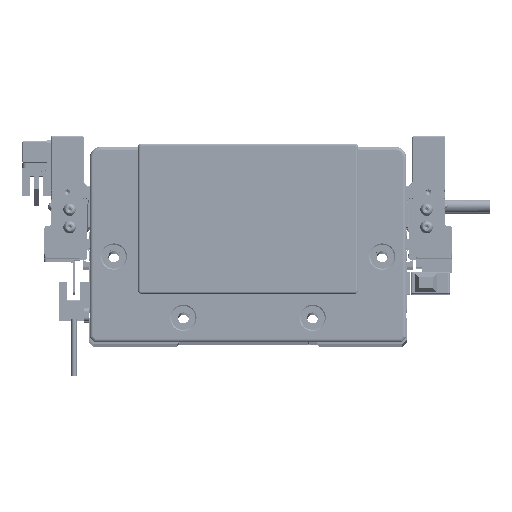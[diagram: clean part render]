
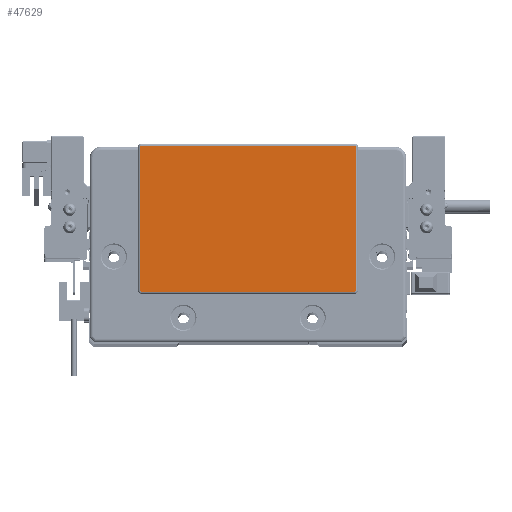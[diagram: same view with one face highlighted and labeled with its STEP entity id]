
A CAD part, top view. The second image highlights one B-rep face of the part: STEP entity #47629.
In plain terms, the highlighted planar face has unit normal (0, 0, 1) as drawn and (0, 0, -1) by its records, which use the part's own axes.
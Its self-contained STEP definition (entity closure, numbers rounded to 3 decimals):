
#1028 = VECTOR ( 'NONE', #5799, 1000. ) ;
#3677 = ORIENTED_EDGE ( 'NONE', *, *, #68801, .T. ) ;
#4081 = CARTESIAN_POINT ( 'NONE',  ( 48.75, -21.8, -2. ) ) ;
#4987 = AXIS2_PLACEMENT_3D ( 'NONE', #4081, #19065, #63043 ) ;
#5799 = DIRECTION ( 'NONE',  ( 1., 0., 0. ) ) ;
#7984 = VERTEX_POINT ( 'NONE', #49715 ) ;
#8033 = CIRCLE ( 'NONE', #4987, 0.5 ) ;
#11153 = CARTESIAN_POINT ( 'NONE',  ( 48.75, 44.3, -2. ) ) ;
#11794 = CARTESIAN_POINT ( 'NONE',  ( 48.75, 44.3, -2. ) ) ;
#11928 = DIRECTION ( 'NONE',  ( -1., 0., 0. ) ) ;
#13823 = EDGE_CURVE ( 'NONE', #44912, #66671, #35875, .T. ) ;
#14226 = CIRCLE ( 'NONE', #38944, 0.5 ) ;
#15081 = DIRECTION ( 'NONE',  ( -1., 0., 0. ) ) ;
#16904 = ORIENTED_EDGE ( 'NONE', *, *, #91197, .T. ) ;
#17965 = CIRCLE ( 'NONE', #24170, 0.5 ) ;
#19065 = DIRECTION ( 'NONE',  ( 0., 0., -1. ) ) ;
#23647 = EDGE_CURVE ( 'NONE', #49899, #66732, #39052, .T. ) ;
#23672 = CARTESIAN_POINT ( 'NONE',  ( 0., 0., -2. ) ) ;
#24170 = AXIS2_PLACEMENT_3D ( 'NONE', #45058, #59059, #15081 ) ;
#33690 = DIRECTION ( 'NONE',  ( 0., 0., -1. ) ) ;
#33753 = ORIENTED_EDGE ( 'NONE', *, *, #44442, .T. ) ;
#35137 = EDGE_CURVE ( 'NONE', #38361, #73870, #56566, .T. ) ;
#35159 = LINE ( 'NONE', #78674, #64606 ) ;
#35875 = LINE ( 'NONE', #42640, #45495 ) ;
#36277 = CARTESIAN_POINT ( 'NONE',  ( 49.25, 43.8, -2. ) ) ;
#37890 = CARTESIAN_POINT ( 'NONE',  ( -49.25, -21.8, -2. ) ) ;
#38201 = FACE_OUTER_BOUND ( 'NONE', #71147, .T. ) ;
#38361 = VERTEX_POINT ( 'NONE', #80460 ) ;
#38944 = AXIS2_PLACEMENT_3D ( 'NONE', #77580, #42714, #40821 ) ;
#39052 = LINE ( 'NONE', #69005, #88042 ) ;
#40821 = DIRECTION ( 'NONE',  ( -1., 0., 0. ) ) ;
#41041 = ORIENTED_EDGE ( 'NONE', *, *, #75090, .T. ) ;
#42506 = CARTESIAN_POINT ( 'NONE',  ( -48.75, -22.3, -2. ) ) ;
#42640 = CARTESIAN_POINT ( 'NONE',  ( -48.75, -22.3, -2. ) ) ;
#42714 = DIRECTION ( 'NONE',  ( 0., 0., -1. ) ) ;
#43999 = DIRECTION ( 'NONE',  ( 0., 0., -1. ) ) ;
#44442 = EDGE_CURVE ( 'NONE', #7984, #38361, #17965, .T. ) ;
#44912 = VERTEX_POINT ( 'NONE', #93342 ) ;
#45058 = CARTESIAN_POINT ( 'NONE',  ( -48.75, 43.8, -2. ) ) ;
#45495 = VECTOR ( 'NONE', #72612, 1000. ) ;
#47629 = ADVANCED_FACE ( 'NONE', ( #38201 ), #53173, .T. ) ;
#48004 = ORIENTED_EDGE ( 'NONE', *, *, #35137, .T. ) ;
#49157 = DIRECTION ( 'NONE',  ( 0., 1., 0. ) ) ;
#49715 = CARTESIAN_POINT ( 'NONE',  ( -49.25, 43.8, -2. ) ) ;
#49899 = VERTEX_POINT ( 'NONE', #36277 ) ;
#53173 = PLANE ( 'NONE',  #90770 ) ;
#54963 = CARTESIAN_POINT ( 'NONE',  ( 48.75, 43.8, -2. ) ) ;
#56566 = LINE ( 'NONE', #11153, #1028 ) ;
#59059 = DIRECTION ( 'NONE',  ( 0., 0., -1. ) ) ;
#61670 = ORIENTED_EDGE ( 'NONE', *, *, #23647, .T. ) ;
#63043 = DIRECTION ( 'NONE',  ( -1., 0., 0. ) ) ;
#63163 = DIRECTION ( 'NONE',  ( 0., -1., 0. ) ) ;
#64606 = VECTOR ( 'NONE', #49157, 1000. ) ;
#66671 = VERTEX_POINT ( 'NONE', #42506 ) ;
#66732 = VERTEX_POINT ( 'NONE', #77843 ) ;
#68801 = EDGE_CURVE ( 'NONE', #94547, #7984, #35159, .T. ) ;
#69005 = CARTESIAN_POINT ( 'NONE',  ( 49.25, -21.8, -2. ) ) ;
#71147 = EDGE_LOOP ( 'NONE', ( #61670, #41041, #74317, #93638, #3677, #33753, #48004, #16904 ) ) ;
#72612 = DIRECTION ( 'NONE',  ( -1., 0., 0. ) ) ;
#73870 = VERTEX_POINT ( 'NONE', #11794 ) ;
#74003 = CIRCLE ( 'NONE', #86357, 0.5 ) ;
#74317 = ORIENTED_EDGE ( 'NONE', *, *, #13823, .T. ) ;
#75090 = EDGE_CURVE ( 'NONE', #66732, #44912, #8033, .T. ) ;
#75192 = EDGE_CURVE ( 'NONE', #66671, #94547, #14226, .T. ) ;
#77580 = CARTESIAN_POINT ( 'NONE',  ( -48.75, -21.8, -2. ) ) ;
#77843 = CARTESIAN_POINT ( 'NONE',  ( 49.25, -21.8, -2. ) ) ;
#78674 = CARTESIAN_POINT ( 'NONE',  ( -49.25, 43.8, -2. ) ) ;
#80460 = CARTESIAN_POINT ( 'NONE',  ( -48.75, 44.3, -2. ) ) ;
#86357 = AXIS2_PLACEMENT_3D ( 'NONE', #54963, #33690, #11928 ) ;
#87998 = DIRECTION ( 'NONE',  ( -1., 0., 0. ) ) ;
#88042 = VECTOR ( 'NONE', #63163, 1000. ) ;
#90770 = AXIS2_PLACEMENT_3D ( 'NONE', #23672, #43999, #87998 ) ;
#91197 = EDGE_CURVE ( 'NONE', #73870, #49899, #74003, .T. ) ;
#93342 = CARTESIAN_POINT ( 'NONE',  ( 48.75, -22.3, -2. ) ) ;
#93638 = ORIENTED_EDGE ( 'NONE', *, *, #75192, .T. ) ;
#94547 = VERTEX_POINT ( 'NONE', #37890 ) ;
